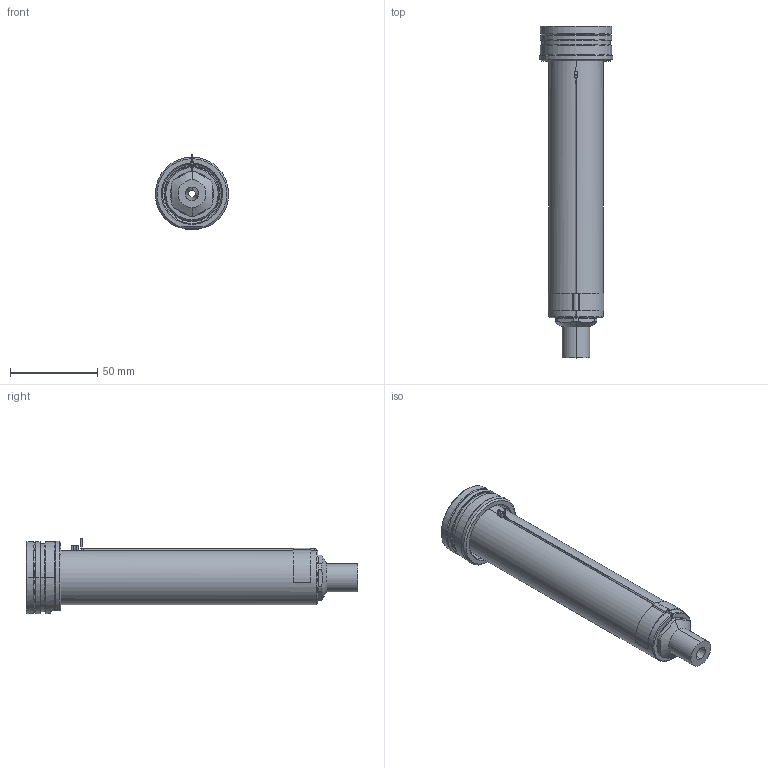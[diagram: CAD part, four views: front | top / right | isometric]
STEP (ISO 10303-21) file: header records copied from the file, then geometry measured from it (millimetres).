
FILE_DESCRIPTION((''),'2;1');
FILE_NAME('EO12_VG-ST_ESG_160_SW','2024-02-19T12:53:47',('sundharh'),(''),'CREO PARAMETRIC BY PTC INC, 2023154','CREO PARAMETRIC BY PTC INC, 2023154','');
FILE_SCHEMA(('CONFIG_CONTROL_DESIGN'));
Length unit declared in the file: millimetre
Products named in the file (1): EO12_VG-ST_ESG_160_SW
Bounding box: 41.85 x 190 x 43 mm (x, y, z)
Volume: 121400.2 mm3; surface area: 31873.5 mm2
Topology: 2 solids, 3 shells, 181 faces, 453 edges, 277 vertices
Faces by surface type: cylinder 65, plane 45, cone 37, torus 27, bspline 5, sphere 2
Entity records: 6175 total; most frequent: CARTESIAN_POINT 1740, DIRECTION 986, ORIENTED_EDGE 898, EDGE_CURVE 449, AXIS2_PLACEMENT_3D 412, VERTEX_POINT 277, CIRCLE 236, EDGE_LOOP 196
